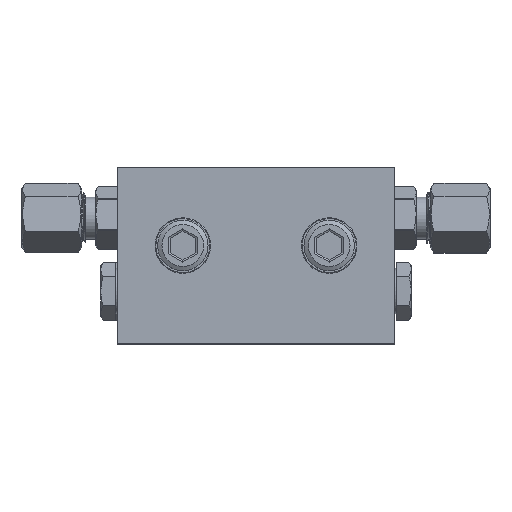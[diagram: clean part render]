
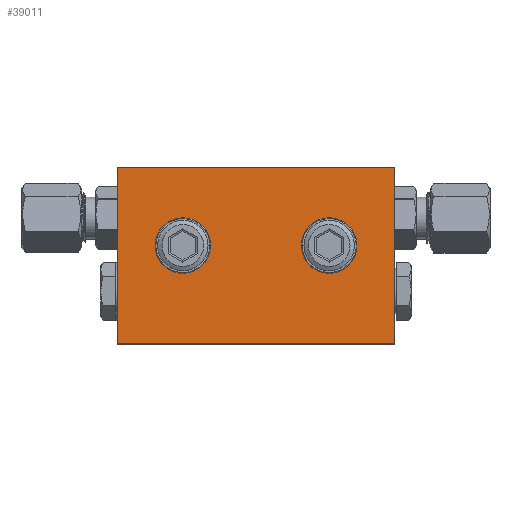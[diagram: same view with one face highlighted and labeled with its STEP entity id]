
A CAD part, top view. The second image highlights one B-rep face of the part: STEP entity #39011.
In plain terms, the highlighted planar face has unit normal (0, 0, 1) as drawn and (0, 0, -1) by its records, which use the part's own axes.
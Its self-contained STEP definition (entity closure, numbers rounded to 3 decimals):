
#370 = DIRECTION ( 'NONE',  ( 0., 0., -1. ) ) ;
#403 = CARTESIAN_POINT ( 'NONE',  ( 0., 0., -4.85 ) ) ;
#779 = CARTESIAN_POINT ( 'NONE',  ( 27.5, 0., -4.85 ) ) ;
#820 = VERTEX_POINT ( 'NONE', #8565 ) ;
#1636 = CARTESIAN_POINT ( 'NONE',  ( -11.4, -15.5, -4.85 ) ) ;
#2282 = AXIS2_PLACEMENT_3D ( 'NONE', #26684, #17291, #10266 ) ;
#2701 = AXIS2_PLACEMENT_3D ( 'NONE', #17198, #370, #7274 ) ;
#4000 = EDGE_LOOP ( 'NONE', ( #30045, #9528, #17566, #30850 ) ) ;
#4451 = CARTESIAN_POINT ( 'NONE',  ( 27.5, 0., -4.85 ) ) ;
#4468 = VECTOR ( 'NONE', #37126, 1000. ) ;
#4900 = EDGE_LOOP ( 'NONE', ( #9446 ) ) ;
#7274 = DIRECTION ( 'NONE',  ( -1., 0., 0. ) ) ;
#8565 = CARTESIAN_POINT ( 'NONE',  ( -27.5, 0., -4.85 ) ) ;
#9068 = EDGE_LOOP ( 'NONE', ( #31674 ) ) ;
#9446 = ORIENTED_EDGE ( 'NONE', *, *, #29296, .F. ) ;
#9528 = ORIENTED_EDGE ( 'NONE', *, *, #25237, .F. ) ;
#9637 = CARTESIAN_POINT ( 'NONE',  ( 11.4, -15.5, -4.85 ) ) ;
#10266 = DIRECTION ( 'NONE',  ( 1., 0., 0. ) ) ;
#10861 = FACE_OUTER_BOUND ( 'NONE', #4000, .T. ) ;
#11511 = CIRCLE ( 'NONE', #2282, 3.1 ) ;
#11953 = DIRECTION ( 'NONE',  ( -1., 0., 0. ) ) ;
#11973 = VECTOR ( 'NONE', #11953, 1000. ) ;
#12263 = EDGE_CURVE ( 'NONE', #38529, #820, #32119, .T. ) ;
#13927 = DIRECTION ( 'NONE',  ( 0., 0., 1. ) ) ;
#14472 = CARTESIAN_POINT ( 'NONE',  ( -27.5, -35., -4.85 ) ) ;
#14939 = DIRECTION ( 'NONE',  ( 1., 0., 0. ) ) ;
#15403 = EDGE_CURVE ( 'NONE', #19007, #38529, #24237, .T. ) ;
#17198 = CARTESIAN_POINT ( 'NONE',  ( 14.5, -15.5, -4.85 ) ) ;
#17291 = DIRECTION ( 'NONE',  ( 0., 0., -1. ) ) ;
#17566 = ORIENTED_EDGE ( 'NONE', *, *, #12263, .F. ) ;
#17820 = VECTOR ( 'NONE', #24034, 1000. ) ;
#19007 = VERTEX_POINT ( 'NONE', #23605 ) ;
#19385 = VERTEX_POINT ( 'NONE', #9637 ) ;
#19963 = VERTEX_POINT ( 'NONE', #14472 ) ;
#20624 = FACE_BOUND ( 'NONE', #4900, .T. ) ;
#23446 = LINE ( 'NONE', #36908, #4468 ) ;
#23605 = CARTESIAN_POINT ( 'NONE',  ( 27.5, -35., -4.85 ) ) ;
#23987 = DIRECTION ( 'NONE',  ( 1., 0., 0. ) ) ;
#24034 = DIRECTION ( 'NONE',  ( 0., 1., 0. ) ) ;
#24237 = LINE ( 'NONE', #4451, #17820 ) ;
#24471 = EDGE_CURVE ( 'NONE', #38644, #38644, #11511, .T. ) ;
#25237 = EDGE_CURVE ( 'NONE', #820, #19963, #23446, .T. ) ;
#26684 = CARTESIAN_POINT ( 'NONE',  ( -14.5, -15.5, -4.85 ) ) ;
#26742 = AXIS2_PLACEMENT_3D ( 'NONE', #403, #13927, #23987 ) ;
#27701 = FACE_BOUND ( 'NONE', #9068, .T. ) ;
#29296 = EDGE_CURVE ( 'NONE', #19385, #19385, #33875, .T. ) ;
#29390 = LINE ( 'NONE', #42869, #32835 ) ;
#30045 = ORIENTED_EDGE ( 'NONE', *, *, #43571, .F. ) ;
#30850 = ORIENTED_EDGE ( 'NONE', *, *, #15403, .F. ) ;
#31674 = ORIENTED_EDGE ( 'NONE', *, *, #24471, .F. ) ;
#32119 = LINE ( 'NONE', #42262, #11973 ) ;
#32835 = VECTOR ( 'NONE', #14939, 1000. ) ;
#33875 = CIRCLE ( 'NONE', #2701, 3.1 ) ;
#34774 = PLANE ( 'NONE',  #26742 ) ;
#36908 = CARTESIAN_POINT ( 'NONE',  ( -27.5, 0., -4.85 ) ) ;
#37126 = DIRECTION ( 'NONE',  ( 0., -1., 0. ) ) ;
#38529 = VERTEX_POINT ( 'NONE', #779 ) ;
#38644 = VERTEX_POINT ( 'NONE', #1636 ) ;
#39011 = ADVANCED_FACE ( 'NONE', ( #27701, #20624, #10861 ), #34774, .F. ) ;
#42262 = CARTESIAN_POINT ( 'NONE',  ( 0., 0., -4.85 ) ) ;
#42869 = CARTESIAN_POINT ( 'NONE',  ( 0., -35., -4.85 ) ) ;
#43571 = EDGE_CURVE ( 'NONE', #19963, #19007, #29390, .T. ) ;
